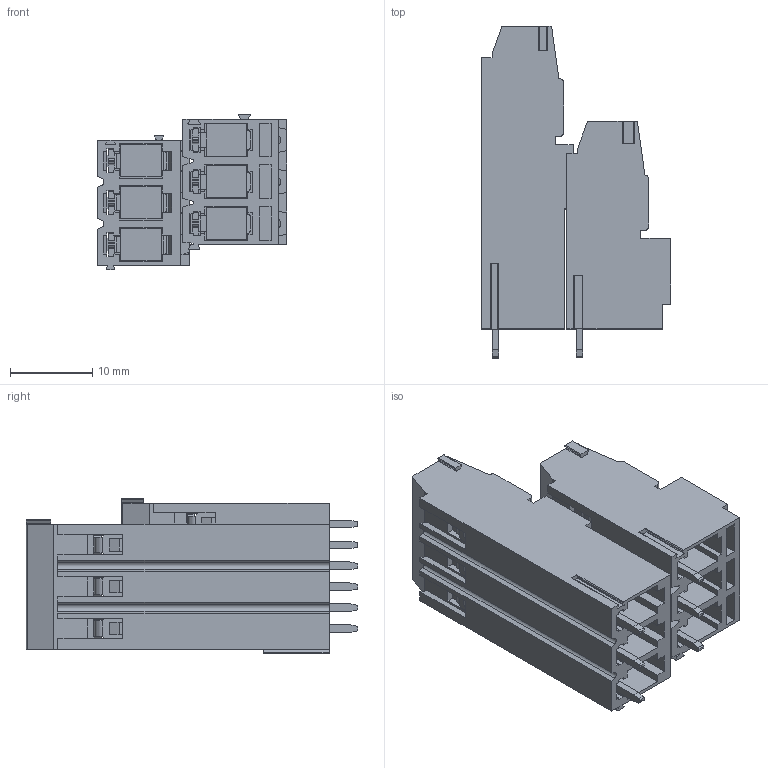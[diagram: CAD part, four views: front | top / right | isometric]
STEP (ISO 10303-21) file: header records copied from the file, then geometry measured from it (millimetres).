
FILE_DESCRIPTION((''),'2;1');
FILE_NAME('ASM0001_ASM','2021-04-14T',('guoxue_sz'),(''),'CREO PARAMETRIC BY PTC INC, 2016260','CREO PARAMETRIC BY PTC INC, 2016260','');
FILE_SCHEMA(('CONFIG_CONTROL_DESIGN'));
Products named in the file (22): YE3_1; YF3_1; LS-14946; FK-17079; YEJZ-17783; LS-19208; FK-21341; YEJZ-22045; LS-23470; FK-25603; YEJZ-26307; LS-27732; FK-29865; YFJZ-30569; LS-31994; FK-34127; YFJZ-34831; LS-36256; FK-38389; YFJZ-39093; 3PIN_1_ASM; ASM0001_ASM
Assembly tree (21 placements, depth 3):
  ASM0001_ASM
    3PIN_1_ASM
      YE3_1
      YF3_1
      LS-14946
      FK-17079
      YEJZ-17783
      LS-19208
      FK-21341
      YEJZ-22045
      LS-23470
      FK-25603
      YEJZ-26307
      LS-27732
      FK-29865
      YFJZ-30569
      LS-31994
      FK-34127
      YFJZ-34831
      LS-36256
      FK-38389
      YFJZ-39093
Bounding box: 23 x 40.3 x 18.85 mm (x, y, z)
Volume: 5024.9 mm3; surface area: 11784.8 mm2
Topology: 20 solids, 20 shells, 1413 faces, 3999 edges, 2647 vertices
Faces by surface type: plane 925, cylinder 359, bspline 60, cone 39, torus 30
Entity records: 57104 total; most frequent: CARTESIAN_POINT 20713, ORIENTED_EDGE 7998, DIRECTION 6776, EDGE_CURVE 3999, VECTOR 2758, LINE 2758, VERTEX_POINT 2647, AXIS2_PLACEMENT_3D 2009
